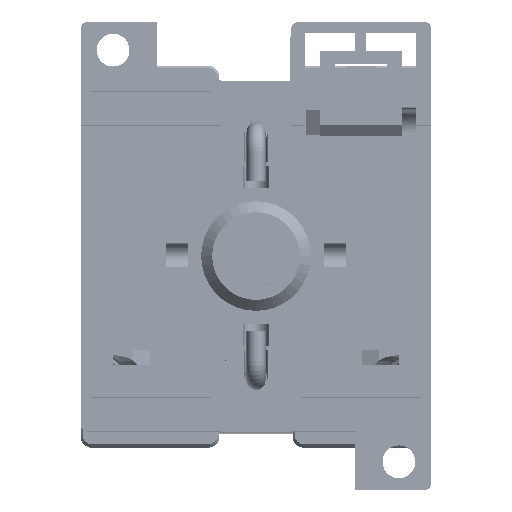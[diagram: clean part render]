
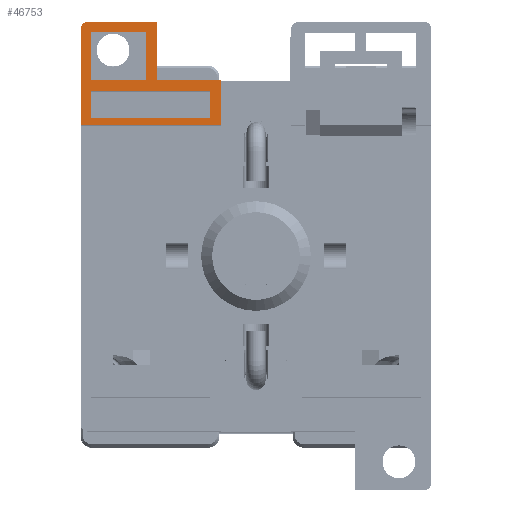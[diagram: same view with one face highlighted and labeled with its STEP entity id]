
A CAD part, top view. The second image highlights one B-rep face of the part: STEP entity #46753.
In plain terms, the highlighted planar face has unit normal (0, 0, 1).
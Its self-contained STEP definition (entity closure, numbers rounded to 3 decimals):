
#5719 = CARTESIAN_POINT ( 'NONE',  ( -8.739, 25.589, -144.082 ) ) ;
#5846 = CARTESIAN_POINT ( 'NONE',  ( -16.639, 25.889, -144.082 ) ) ;
#7295 = CARTESIAN_POINT ( 'NONE',  ( -16.139, 18.939, -144.082 ) ) ;
#11640 = AXIS2_PLACEMENT_3D ( 'NONE', #5846, #316617, #148576 ) ;
#14192 = PLANE ( 'NONE',  #330731 ) ;
#16004 = DIRECTION ( 'NONE',  ( 0., 1., 0. ) ) ;
#21950 = VERTEX_POINT ( 'NONE', #5719 ) ;
#26571 = CARTESIAN_POINT ( 'NONE',  ( -16.139, 25.589, -144.082 ) ) ;
#27598 = EDGE_CURVE ( 'NONE', #168480, #81125, #70609, .T. ) ;
#30967 = EDGE_CURVE ( 'NONE', #55978, #312417, #338207, .T. ) ;
#31964 = EDGE_CURVE ( 'NONE', #48780, #312417, #208181, .T. ) ;
#34578 = VERTEX_POINT ( 'NONE', #186965 ) ;
#38638 = ORIENTED_EDGE ( 'NONE', *, *, #31964, .F. ) ;
#41862 = DIRECTION ( 'NONE',  ( 0., 1., 0. ) ) ;
#46753 = ADVANCED_FACE ( 'NONE', ( #215195, #272279, #329290 ), #14192, .F. ) ;
#48780 = VERTEX_POINT ( 'NONE', #285642 ) ;
#49896 = CARTESIAN_POINT ( 'NONE',  ( 0.061, 17.389, -144.082 ) ) ;
#49912 = VECTOR ( 'NONE', #270423, 1000. ) ;
#51683 = LINE ( 'NONE', #71994, #341466 ) ;
#55978 = VERTEX_POINT ( 'NONE', #157550 ) ;
#57240 = EDGE_CURVE ( 'NONE', #138432, #254708, #312048, .T. ) ;
#58008 = LINE ( 'NONE', #199159, #198536 ) ;
#62552 = VERTEX_POINT ( 'NONE', #49896 ) ;
#63565 = ORIENTED_EDGE ( 'NONE', *, *, #313015, .T. ) ;
#70609 = LINE ( 'NONE', #279642, #202358 ) ;
#71517 = VECTOR ( 'NONE', #272486, 1000. ) ;
#71994 = CARTESIAN_POINT ( 'NONE',  ( 1.561, 26.889, -144.082 ) ) ;
#81125 = VERTEX_POINT ( 'NONE', #340434 ) ;
#83017 = ORIENTED_EDGE ( 'NONE', *, *, #249680, .F. ) ;
#83119 = VERTEX_POINT ( 'NONE', #341887 ) ;
#86227 = CARTESIAN_POINT ( 'NONE',  ( -16.139, 25.589, -144.082 ) ) ;
#86325 = EDGE_CURVE ( 'NONE', #103090, #168480, #320973, .T. ) ;
#90227 = VECTOR ( 'NONE', #261298, 1000. ) ;
#92698 = LINE ( 'NONE', #86227, #215596 ) ;
#94998 = DIRECTION ( 'NONE',  ( 1., 0., 0. ) ) ;
#103090 = VERTEX_POINT ( 'NONE', #128981 ) ;
#114591 = VECTOR ( 'NONE', #350891, 1000. ) ;
#117486 = EDGE_CURVE ( 'NONE', #55978, #103090, #220875, .T. ) ;
#124025 = CARTESIAN_POINT ( 'NONE',  ( 0.061, 13.739, -144.082 ) ) ;
#128981 = CARTESIAN_POINT ( 'NONE',  ( -7.239, 26.889, -144.082 ) ) ;
#136913 = CARTESIAN_POINT ( 'NONE',  ( -17.639, 25.889, -144.082 ) ) ;
#138432 = VERTEX_POINT ( 'NONE', #242116 ) ;
#145358 = ORIENTED_EDGE ( 'NONE', *, *, #282051, .F. ) ;
#148576 = DIRECTION ( 'NONE',  ( 1., 0., 0. ) ) ;
#149405 = VECTOR ( 'NONE', #194688, 1000. ) ;
#152440 = ORIENTED_EDGE ( 'NONE', *, *, #186710, .F. ) ;
#154092 = DIRECTION ( 'NONE',  ( 1., 0., 0. ) ) ;
#157550 = CARTESIAN_POINT ( 'NONE',  ( -16.639, 26.889, -144.082 ) ) ;
#157956 = VECTOR ( 'NONE', #16004, 1000. ) ;
#162358 = VERTEX_POINT ( 'NONE', #358766 ) ;
#168480 = VERTEX_POINT ( 'NONE', #253958 ) ;
#171732 = CARTESIAN_POINT ( 'NONE',  ( -8.739, 18.939, -144.082 ) ) ;
#173866 = ORIENTED_EDGE ( 'NONE', *, *, #117486, .F. ) ;
#176103 = VERTEX_POINT ( 'NONE', #171732 ) ;
#176761 = ORIENTED_EDGE ( 'NONE', *, *, #86325, .F. ) ;
#177566 = VERTEX_POINT ( 'NONE', #191490 ) ;
#181767 = VECTOR ( 'NONE', #41862, 1000. ) ;
#183552 = DIRECTION ( 'NONE',  ( 0., 0., -1. ) ) ;
#184384 = ORIENTED_EDGE ( 'NONE', *, *, #288018, .F. ) ;
#186710 = EDGE_CURVE ( 'NONE', #83119, #34578, #219510, .T. ) ;
#186965 = CARTESIAN_POINT ( 'NONE',  ( -16.139, 18.939, -144.082 ) ) ;
#190621 = CARTESIAN_POINT ( 'NONE',  ( 0.061, 17.389, -144.082 ) ) ;
#191490 = CARTESIAN_POINT ( 'NONE',  ( 0.061, 13.739, -144.082 ) ) ;
#194688 = DIRECTION ( 'NONE',  ( 0., -1., 0. ) ) ;
#194940 = DIRECTION ( 'NONE',  ( 1., 0., 0. ) ) ;
#197528 = ORIENTED_EDGE ( 'NONE', *, *, #27598, .F. ) ;
#198536 = VECTOR ( 'NONE', #338951, 1000. ) ;
#199159 = CARTESIAN_POINT ( 'NONE',  ( -8.739, 25.589, -144.082 ) ) ;
#202358 = VECTOR ( 'NONE', #194940, 1000. ) ;
#206181 = LINE ( 'NONE', #124025, #157956 ) ;
#207842 = CARTESIAN_POINT ( 'NONE',  ( 0.061, 13.739, -144.082 ) ) ;
#208079 = CARTESIAN_POINT ( 'NONE',  ( 6.361, -5.111, -144.082 ) ) ;
#208181 = LINE ( 'NONE', #271295, #181767 ) ;
#208321 = ORIENTED_EDGE ( 'NONE', *, *, #228803, .F. ) ;
#209756 = VECTOR ( 'NONE', #281242, 1000. ) ;
#215195 = FACE_BOUND ( 'NONE', #328206, .T. ) ;
#215596 = VECTOR ( 'NONE', #342559, 1000. ) ;
#216757 = ORIENTED_EDGE ( 'NONE', *, *, #30967, .T. ) ;
#217768 = ORIENTED_EDGE ( 'NONE', *, *, #351043, .F. ) ;
#218153 = ORIENTED_EDGE ( 'NONE', *, *, #57240, .F. ) ;
#219510 = LINE ( 'NONE', #26571, #149405 ) ;
#220875 = LINE ( 'NONE', #328896, #71517 ) ;
#228803 = EDGE_CURVE ( 'NONE', #62552, #138432, #322105, .T. ) ;
#230048 = ORIENTED_EDGE ( 'NONE', *, *, #300514, .F. ) ;
#235753 = EDGE_CURVE ( 'NONE', #21950, #83119, #92698, .T. ) ;
#242116 = CARTESIAN_POINT ( 'NONE',  ( -16.139, 17.389, -144.082 ) ) ;
#249680 = EDGE_CURVE ( 'NONE', #177566, #62552, #206181, .T. ) ;
#253958 = CARTESIAN_POINT ( 'NONE',  ( -7.239, 18.889, -144.082 ) ) ;
#254708 = VERTEX_POINT ( 'NONE', #291544 ) ;
#254921 = EDGE_LOOP ( 'NONE', ( #173866, #216757, #38638, #63565, #230048, #197528, #176761 ) ) ;
#259474 = VECTOR ( 'NONE', #94998, 1000. ) ;
#261298 = DIRECTION ( 'NONE',  ( 1., 0., 0. ) ) ;
#263808 = VECTOR ( 'NONE', #307493, 1000. ) ;
#265471 = EDGE_LOOP ( 'NONE', ( #217768, #152440, #320219, #184384 ) ) ;
#266005 = LINE ( 'NONE', #7295, #90227 ) ;
#270423 = DIRECTION ( 'NONE',  ( -1., 0., 0. ) ) ;
#271295 = CARTESIAN_POINT ( 'NONE',  ( -17.639, -29.111, -144.082 ) ) ;
#272279 = FACE_BOUND ( 'NONE', #265471, .T. ) ;
#272486 = DIRECTION ( 'NONE',  ( 1., 0., 0. ) ) ;
#279270 = CARTESIAN_POINT ( 'NONE',  ( -16.139, 13.739, -144.082 ) ) ;
#279642 = CARTESIAN_POINT ( 'NONE',  ( -7.239, 18.889, -144.082 ) ) ;
#281242 = DIRECTION ( 'NONE',  ( 1., 0., 0. ) ) ;
#282051 = EDGE_CURVE ( 'NONE', #254708, #177566, #298962, .T. ) ;
#285642 = CARTESIAN_POINT ( 'NONE',  ( -17.639, 12.739, -144.082 ) ) ;
#288018 = EDGE_CURVE ( 'NONE', #176103, #21950, #58008, .T. ) ;
#291544 = CARTESIAN_POINT ( 'NONE',  ( -16.139, 13.739, -144.082 ) ) ;
#292138 = CARTESIAN_POINT ( 'NONE',  ( -7.239, 18.889, -144.082 ) ) ;
#298962 = LINE ( 'NONE', #207842, #259474 ) ;
#300514 = EDGE_CURVE ( 'NONE', #81125, #162358, #51683, .T. ) ;
#307493 = DIRECTION ( 'NONE',  ( 0., -1., 0. ) ) ;
#312048 = LINE ( 'NONE', #279270, #263808 ) ;
#312417 = VERTEX_POINT ( 'NONE', #136913 ) ;
#313015 = EDGE_CURVE ( 'NONE', #48780, #162358, #359116, .T. ) ;
#316617 = DIRECTION ( 'NONE',  ( 0., 0., 1. ) ) ;
#320219 = ORIENTED_EDGE ( 'NONE', *, *, #235753, .F. ) ;
#320973 = LINE ( 'NONE', #292138, #114591 ) ;
#322105 = LINE ( 'NONE', #190621, #49912 ) ;
#326003 = DIRECTION ( 'NONE',  ( 0., -1., 0. ) ) ;
#328206 = EDGE_LOOP ( 'NONE', ( #218153, #208321, #83017, #145358 ) ) ;
#328896 = CARTESIAN_POINT ( 'NONE',  ( -17.639, 26.889, -144.082 ) ) ;
#329290 = FACE_OUTER_BOUND ( 'NONE', #254921, .T. ) ;
#330731 = AXIS2_PLACEMENT_3D ( 'NONE', #208079, #183552, #154092 ) ;
#338207 = CIRCLE ( 'NONE', #11640, 1. ) ;
#338951 = DIRECTION ( 'NONE',  ( 0., 1., 0. ) ) ;
#340434 = CARTESIAN_POINT ( 'NONE',  ( 1.561, 18.889, -144.082 ) ) ;
#341466 = VECTOR ( 'NONE', #326003, 1000. ) ;
#341887 = CARTESIAN_POINT ( 'NONE',  ( -16.139, 25.589, -144.082 ) ) ;
#342559 = DIRECTION ( 'NONE',  ( -1., 0., 0. ) ) ;
#350891 = DIRECTION ( 'NONE',  ( 0., -1., 0. ) ) ;
#351043 = EDGE_CURVE ( 'NONE', #34578, #176103, #266005, .T. ) ;
#353738 = CARTESIAN_POINT ( 'NONE',  ( -53.715, 12.739, -144.082 ) ) ;
#358766 = CARTESIAN_POINT ( 'NONE',  ( 1.561, 12.739, -144.082 ) ) ;
#359116 = LINE ( 'NONE', #353738, #209756 ) ;
